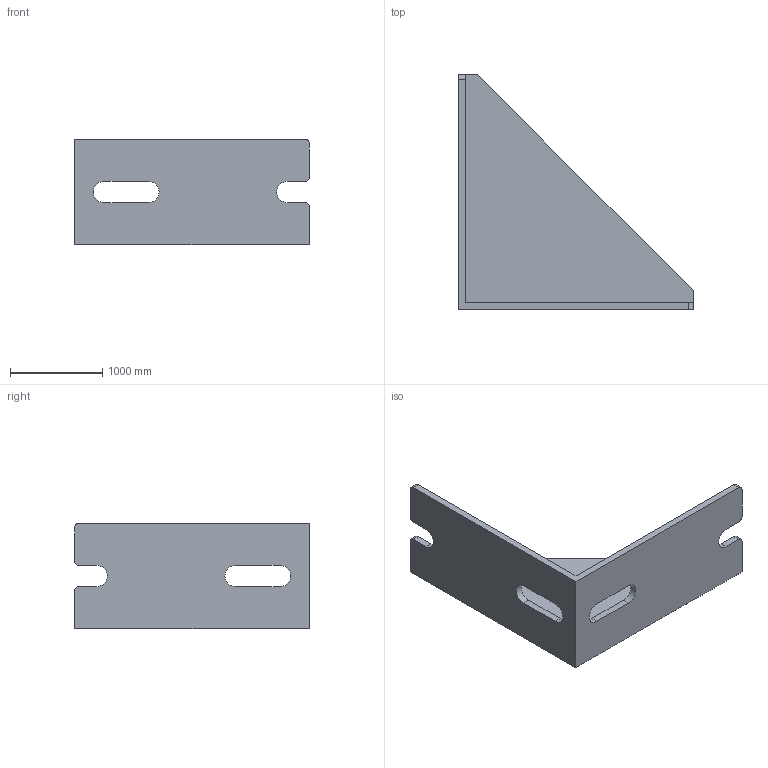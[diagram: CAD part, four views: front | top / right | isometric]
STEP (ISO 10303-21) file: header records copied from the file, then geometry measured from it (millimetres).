
FILE_DESCRIPTION((''),'2;1');
FILE_NAME('E:\catalogue and flyer\Profile catalogue 2015\Accessories JE info\Accessories-JE step file 31MAr16\JE-AB100x100.stp','2016-03-31T14:56:35',('h029'),(''),'Autodesk Inventor 11','Autodesk Inventor 11','');
FILE_SCHEMA(('AUTOMOTIVE_DESIGN { 1 0 10303 214 1 1 1 1 }'));
Length unit declared in the file: inch
Products named in the file (1): JE-AB100x100
Bounding box: 2540 x 2540 x 1143 mm (x, y, z)
Volume: 655437209.2 mm3; surface area: 18375804.3 mm2
Topology: 1 solids, 1 shells, 32 faces, 90 edges, 60 vertices
Faces by surface type: plane 20, cylinder 12
Entity records: 1071 total; most frequent: CARTESIAN_POINT 183, DIRECTION 180, ORIENTED_EDGE 180, EDGE_CURVE 90, VECTOR 66, LINE 66, VERTEX_POINT 60, AXIS2_PLACEMENT_3D 57
